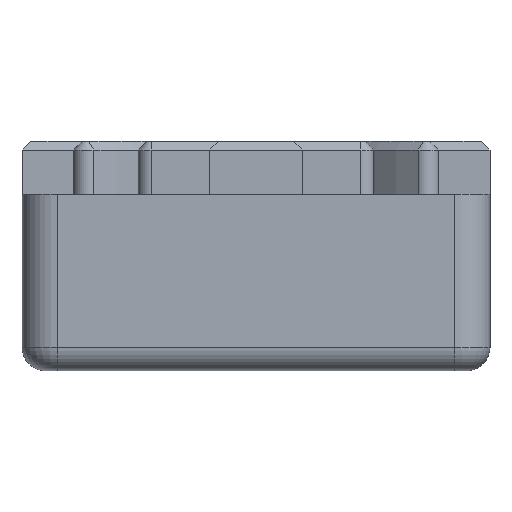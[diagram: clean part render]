
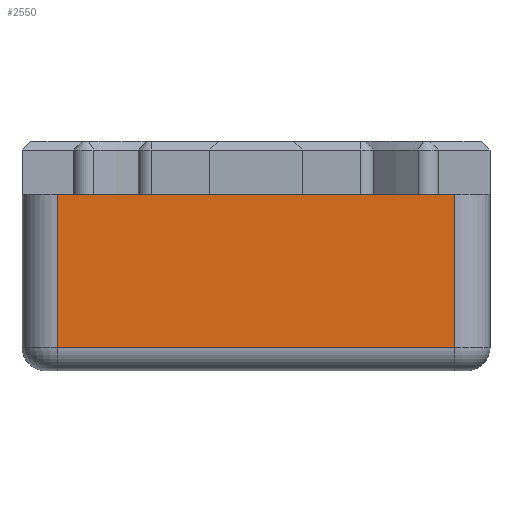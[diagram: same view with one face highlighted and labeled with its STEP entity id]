
A CAD part, front view. The second image highlights one B-rep face of the part: STEP entity #2550.
In plain terms, the highlighted planar face has unit normal (0, -1, 0).
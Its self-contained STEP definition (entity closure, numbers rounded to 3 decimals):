
#152 = AXIS2_PLACEMENT_3D ( 'NONE', #756, #2837, #1334 ) ;
#173 = LINE ( 'NONE', #2893, #699 ) ;
#183 = EDGE_CURVE ( 'NONE', #2908, #1298, #173, .T. ) ;
#258 = VECTOR ( 'NONE', #1013, 1000. ) ;
#298 = CARTESIAN_POINT ( 'NONE',  ( 3.125, -6.125, -16. ) ) ;
#310 = FACE_OUTER_BOUND ( 'NONE', #455, .T. ) ;
#406 = VERTEX_POINT ( 'NONE', #2412 ) ;
#455 = EDGE_LOOP ( 'NONE', ( #1029, #3047, #2631, #614 ) ) ;
#614 = ORIENTED_EDGE ( 'NONE', *, *, #3421, .T. ) ;
#667 = EDGE_CURVE ( 'NONE', #1298, #406, #1636, .T. ) ;
#699 = VECTOR ( 'NONE', #1126, 1000. ) ;
#756 = CARTESIAN_POINT ( 'NONE',  ( 3.125, -6.125, -16. ) ) ;
#827 = VECTOR ( 'NONE', #1177, 1000. ) ;
#1013 = DIRECTION ( 'NONE',  ( -1., 0., 0. ) ) ;
#1029 = ORIENTED_EDGE ( 'NONE', *, *, #3152, .F. ) ;
#1066 = PLANE ( 'NONE',  #152 ) ;
#1126 = DIRECTION ( 'NONE',  ( 1., 0., 0. ) ) ;
#1177 = DIRECTION ( 'NONE',  ( 0., 0., 1. ) ) ;
#1190 = LINE ( 'NONE', #298, #827 ) ;
#1298 = VERTEX_POINT ( 'NONE', #2626 ) ;
#1334 = DIRECTION ( 'NONE',  ( 0., 0., 1. ) ) ;
#1335 = CARTESIAN_POINT ( 'NONE',  ( 36.875, -6.125, -16. ) ) ;
#1533 = CARTESIAN_POINT ( 'NONE',  ( 3.125, -6.125, -1. ) ) ;
#1636 = LINE ( 'NONE', #1335, #2609 ) ;
#1637 = LINE ( 'NONE', #2785, #258 ) ;
#2412 = CARTESIAN_POINT ( 'NONE',  ( 36.875, -6.125, -1. ) ) ;
#2550 = ADVANCED_FACE ( 'NONE', ( #310 ), #1066, .F. ) ;
#2609 = VECTOR ( 'NONE', #3692, 1000. ) ;
#2626 = CARTESIAN_POINT ( 'NONE',  ( 36.875, -6.125, -14. ) ) ;
#2631 = ORIENTED_EDGE ( 'NONE', *, *, #667, .T. ) ;
#2710 = VERTEX_POINT ( 'NONE', #1533 ) ;
#2785 = CARTESIAN_POINT ( 'NONE',  ( 3.125, -6.125, -1. ) ) ;
#2837 = DIRECTION ( 'NONE',  ( 0., 1., 0. ) ) ;
#2893 = CARTESIAN_POINT ( 'NONE',  ( 3.125, -6.125, -14. ) ) ;
#2908 = VERTEX_POINT ( 'NONE', #3414 ) ;
#3047 = ORIENTED_EDGE ( 'NONE', *, *, #183, .T. ) ;
#3152 = EDGE_CURVE ( 'NONE', #2908, #2710, #1190, .T. ) ;
#3414 = CARTESIAN_POINT ( 'NONE',  ( 3.125, -6.125, -14. ) ) ;
#3421 = EDGE_CURVE ( 'NONE', #406, #2710, #1637, .T. ) ;
#3692 = DIRECTION ( 'NONE',  ( 0., 0., 1. ) ) ;
